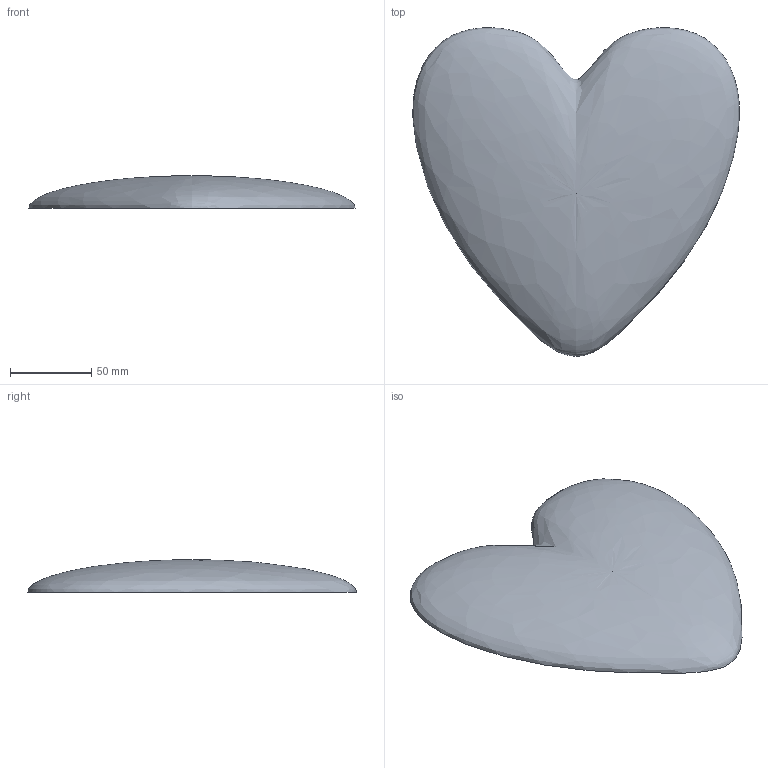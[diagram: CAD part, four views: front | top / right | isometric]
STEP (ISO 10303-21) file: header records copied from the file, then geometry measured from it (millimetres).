
FILE_DESCRIPTION(('Open CASCADE Model'),'2;1');
FILE_NAME('Open CASCADE Shape Model','2016-02-25T16:27:08',('Author'),( 'Open CASCADE'),'Open CASCADE STEP processor 6.7','Open CASCADE 6.7' ,'Unknown');
FILE_SCHEMA(('AUTOMOTIVE_DESIGN_CC2 { 1 2 10303 214 -1 1 5 4 }'));
Length unit declared in the file: millimetre
Products named in the file (1): Open CASCADE STEP translator 6.7 2
Bounding box: 200.52 x 201.68 x 20 mm (x, y, z)
Surface area: 32605.7 mm2 (no closed solid volume)
Topology: 0 solids, 1 shells, 1 faces, 3 edges, 2 vertices
Faces by surface type: bspline 1
Entity records: 138 total; most frequent: CARTESIAN_POINT 93, DIRECTION 5, ORIENTED_EDGE 3, PCURVE 3, DEFINITIONAL_REPRESENTATION 3, LINE 3, VECTOR 3, EDGE_CURVE 2
